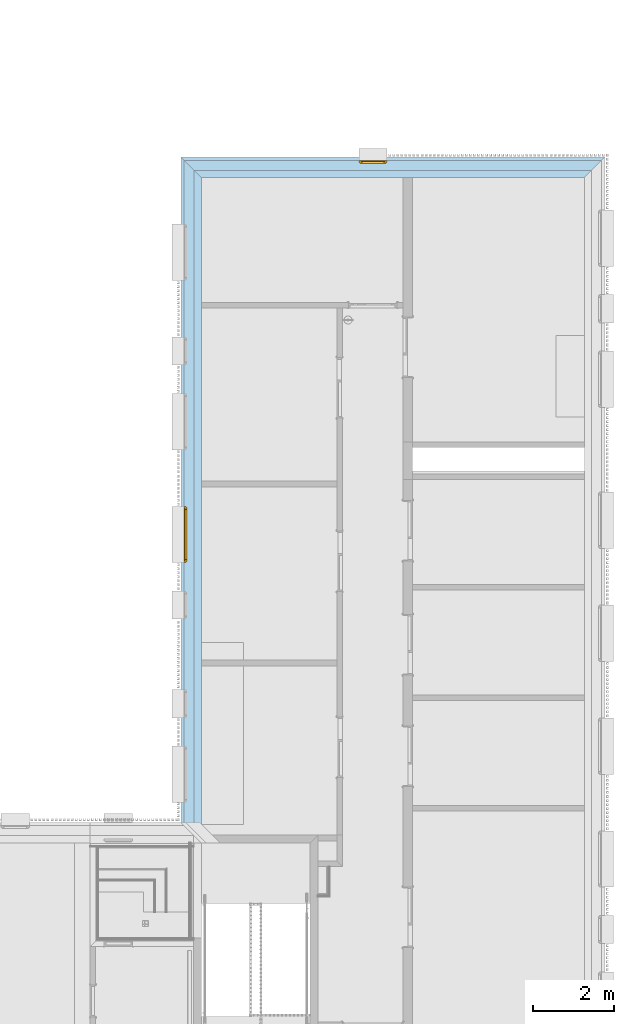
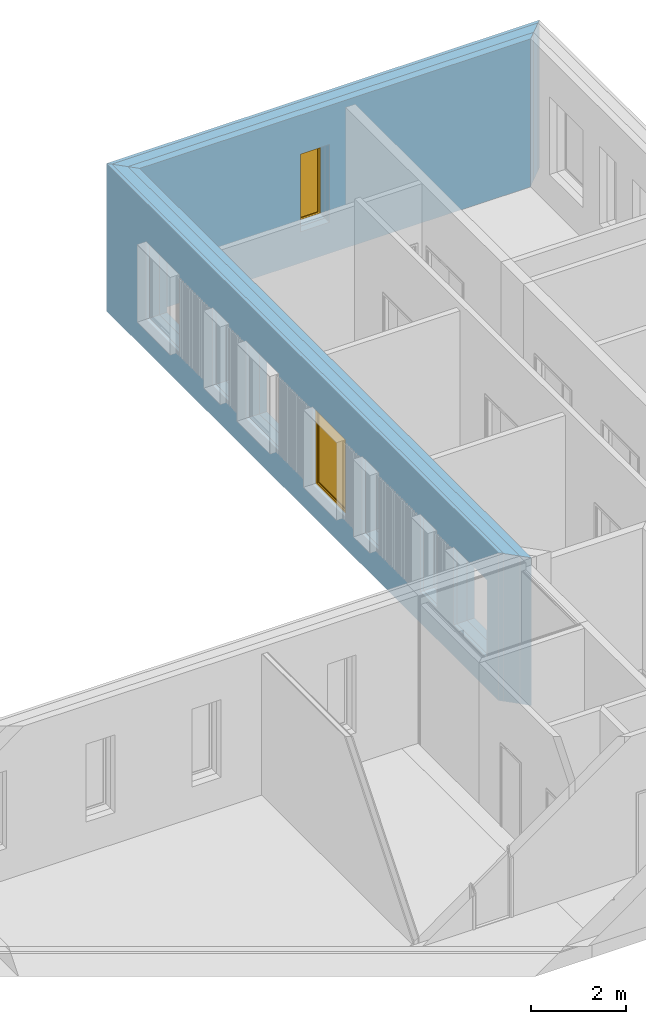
# One storey, part 70 of 100: 2 windows, 8 openings, 2 elements without a shape of their own, plus 6 elements that do not belong to this part.
"""IFC2X3 building model written with IfcOpenShell, lengths in millimetres."""

from ifc_helpers import new_model, entity, si_unit, converted_unit, derived_unit, money_unit, direction, frame, origin_with_axes, origin_2d_with_axis, place, context, subcontext, project, spatial, polyline, rectangle, outline, extrude, open_shell, faceted_brep, surface_model, material, type_object, element, fill, aggregate, save


model = new_model("IFC2X3")

# Units and contexts
model_context = context("Model", 3, precision=0.01, world=origin_with_axes(), true_north=direction((0.0, 1.0)))
body_context = subcontext(model_context, "Body", "Model", "MODEL_VIEW")
ifc_project = project(units=[si_unit("LENGTHUNIT", "METRE", prefix="MILLI"), si_unit("AREAUNIT", "SQUARE_METRE"), si_unit("VOLUMEUNIT", "CUBIC_METRE"), converted_unit("PLANEANGLEUNIT", "DEGREE", entity("IfcPlaneAngleMeasure", 0.0174532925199), si_unit("PLANEANGLEUNIT", "RADIAN"), dimensions=[0, 0, 0, 0, 0, 0, 0]), si_unit("SOLIDANGLEUNIT", "STERADIAN"), money_unit("EUR"), converted_unit("TIMEUNIT", "Year", entity("IfcTimeMeasure", 31556926.0), si_unit("TIMEUNIT", "SECOND"), dimensions=[0, 0, 1, 0, 0, 0, 0]), si_unit("MASSUNIT", "GRAM", prefix="KILO"), si_unit("THERMODYNAMICTEMPERATUREUNIT", "DEGREE_CELSIUS"), si_unit("LUMINOUSINTENSITYUNIT", "LUMEN"), si_unit("ENERGYUNIT", "JOULE", prefix="MEGA"), derived_unit("THERMALCONDUCTANCEUNIT", [(si_unit("POWERUNIT", "WATT"), 1), (si_unit("LENGTHUNIT", "METRE"), -1), (si_unit("THERMODYNAMICTEMPERATUREUNIT", "KELVIN"), -1)]), derived_unit("SPECIFICHEATCAPACITYUNIT", [(si_unit("ENERGYUNIT", "JOULE"), 1), (si_unit("MASSUNIT", "GRAM", prefix="KILO"), -1), (si_unit("THERMODYNAMICTEMPERATUREUNIT", "KELVIN"), -1)]), derived_unit("MASSDENSITYUNIT", [(si_unit("MASSUNIT", "GRAM", prefix="KILO"), 1), (si_unit("VOLUMEUNIT", "CUBIC_METRE"), -1)])], contexts=[model_context])

# Site, building, storey
site_placement = place(None, origin_with_axes())
site = spatial("IfcSite", under=ifc_project, at=site_placement, Name="Politse- ja Piirivalveameti ning Päästeameti ühishoone", CompositionType="ELEMENT")
building_placement = place(site_placement, origin_with_axes())
building = spatial("IfcBuilding", under=site, at=building_placement, Name="Politse- ja Piirivalveameti ning Päästeameti ühishoone", CompositionType="ELEMENT")
storey_placement = place(building_placement, frame((0.0, 0.0, 3800.0), z_axis=(0.0, 0.0, 1.0), x_axis=(1.0, 0.0, 0.0)))
storey = spatial("IfcBuildingStorey", under=building, at=storey_placement, Name="Teine korrus", CompositionType="ELEMENT", Elevation=3800.0)

# Window
window_style_1 = type_object("IfcWindowStyle", Name="Window 23", ConstructionType="NOTDEFINED", OperationType="SINGLE_PANEL", ParameterTakesPrecedence=False, Sizeable=False)
wall_1_placement = place(storey_placement, frame((60160.5519118, 37499.9521318, 0.0), z_axis=(0.0, 0.0, 1.0), x_axis=(0.0, -1.0, 0.0)))
opening_1_placement = place(wall_1_placement, frame((8850.48527148, 0.0, 800.0), z_axis=(0.0, 0.0, 1.0), x_axis=(1.0, 0.0, 0.0)))
window_1_placement = place(opening_1_placement, frame((-700.0, 0.0, 0.0), z_axis=(0.0, 0.0, 1.0), x_axis=(1.0, 0.0, 0.0)))
window_1 = element("IfcWindow", 1, at=window_1_placement, inside=storey, type_object=window_style_1, Name="A-02", ObjectType="WINDOW", OverallHeight=2000.0, OverallWidth=1400.0, context=body_context, shape_type="SurfaceModel", body=[
    faceted_brep([(1375.0, -380.0, 1950.0), (1375.0, -405.0, 1950.0), (1350.0, -405.0, 1950.0), (1350.0, -430.0, 1950.0), (1400.0, -430.0, 1950.0), (1400.0, -380.0, 1950.0), (1375.0, -380.0, 50.0), (1375.0, -405.0, 50.0), (1350.0, -405.0, 50.0), (1350.0, -430.0, 50.0), (1400.0, -430.0, 50.0), (1400.0, -380.0, 50.0)], [[[0, 1, 2, 3, 4, 5]], [[1, 0, 6, 7]], [[8, 2, 1, 7]], [[2, 8, 9, 3]], [[4, 3, 9, 10]], [[5, 4, 10, 11]], [[6, 0, 5, 11]], [[7, 6, 11, 10, 9, 8]]]),
    faceted_brep([(50.0, -405.0, 1950.0), (25.0, -405.0, 1950.0), (25.0, -380.0, 1950.0), (0.0, -380.0, 1950.0), (0.0, -430.0, 1950.0), (50.0, -430.0, 1950.0), (50.0, -405.0, 50.0), (25.0, -405.0, 50.0), (25.0, -380.0, 50.0), (0.0, -380.0, 50.0), (0.0, -430.0, 50.0), (50.0, -430.0, 50.0)], [[[0, 1, 2, 3, 4, 5]], [[1, 0, 6, 7]], [[8, 2, 1, 7]], [[2, 8, 9, 3]], [[9, 10, 4, 3]], [[10, 11, 5, 4]], [[6, 0, 5, 11]], [[7, 6, 11, 10, 9, 8]]]),
    faceted_brep([(50.0, -405.0, 50.0), (25.0, -405.0, 50.0), (25.0, -380.0, 50.0), (0.0, -380.0, 50.0), (0.0, -430.0, 50.0), (50.0, -430.0, 50.0), (1350.0, -405.0, 50.0), (1375.0, -405.0, 50.0), (1375.0, -405.0, 25.0), (25.0, -405.0, 25.0), (25.0, -380.0, 25.0), (1375.0, -380.0, 25.0), (1375.0, -380.0, 50.0), (1400.0, -380.0, 50.0), (1400.0, -380.0, 0.0), (0.0, -380.0, 0.0), (0.0, -430.0, 0.0), (1400.0, -430.0, 50.0), (1350.0, -430.0, 50.0), (1400.0, -430.0, 0.0)], [[[0, 1, 2, 3, 4, 5]], [[1, 0, 6, 7, 8, 9]], [[10, 2, 1, 9]], [[11, 12, 13, 14, 15, 3, 2, 10]], [[15, 16, 4, 3]], [[17, 18, 5, 4, 16, 19]], [[6, 0, 5, 18]], [[7, 6, 18, 17, 13, 12]], [[7, 12, 11, 8]], [[11, 10, 9, 8]], [[13, 17, 19, 14]], [[14, 19, 16, 15]]]),
    faceted_brep([(1375.0, -380.0, 1950.0), (1375.0, -380.0, 1975.0), (25.0, -380.0, 1975.0), (25.0, -380.0, 1950.0), (0.0, -380.0, 1950.0), (0.0, -380.0, 2000.0), (1400.0, -380.0, 2000.0), (1400.0, -380.0, 1950.0), (1375.0, -405.0, 1950.0), (1375.0, -405.0, 1975.0), (25.0, -405.0, 1975.0), (25.0, -405.0, 1950.0), (50.0, -405.0, 1950.0), (50.0, -430.0, 1950.0), (0.0, -430.0, 1950.0), (0.0, -430.0, 2000.0), (1400.0, -430.0, 2000.0), (1400.0, -430.0, 1950.0), (1350.0, -430.0, 1950.0), (1350.0, -405.0, 1950.0)], [[[0, 1, 2, 3, 4, 5, 6, 7]], [[1, 0, 8, 9]], [[2, 1, 9, 10]], [[3, 2, 10, 11]], [[11, 12, 13, 14, 4, 3]], [[4, 14, 15, 5]], [[5, 15, 16, 6]], [[6, 16, 17, 7]], [[8, 0, 7, 17, 18, 19]], [[12, 11, 10, 9, 8, 19]], [[12, 19, 18, 13]], [[14, 13, 18, 17, 16, 15]]]),
    faceted_brep([(1325.0, -405.0, 1925.0), (1375.0, -405.0, 1925.0), (1375.0, -355.0, 1925.0), (1325.0, -355.0, 1925.0), (1325.0, -405.0, 75.0), (1375.0, -405.0, 75.0), (1375.0, -355.0, 75.0), (1325.0, -355.0, 75.0)], [[[0, 1, 2, 3]], [[0, 4, 5, 1]], [[1, 5, 6, 2]], [[3, 2, 6, 7]], [[4, 0, 3, 7]], [[5, 4, 7, 6]]]),
    faceted_brep([(75.0, -405.0, 75.0), (25.0, -405.0, 75.0), (25.0, -355.0, 75.0), (75.0, -355.0, 75.0), (75.0, -405.0, 1925.0), (25.0, -405.0, 1925.0), (25.0, -355.0, 1925.0), (75.0, -355.0, 1925.0)], [[[0, 1, 2, 3]], [[0, 4, 5, 1]], [[1, 5, 6, 2]], [[3, 2, 6, 7]], [[4, 0, 3, 7]], [[5, 4, 7, 6]]]),
    faceted_brep([(25.0, -405.0, 25.0), (25.0, -405.0, 75.0), (25.0, -355.0, 75.0), (25.0, -355.0, 25.0), (1375.0, -405.0, 25.0), (1375.0, -405.0, 75.0), (1325.0, -405.0, 75.0), (75.0, -405.0, 75.0), (75.0, -355.0, 75.0), (1325.0, -355.0, 75.0), (1375.0, -355.0, 75.0), (1375.0, -355.0, 25.0)], [[[0, 1, 2, 3]], [[0, 4, 5, 6, 7, 1]], [[1, 7, 8, 2]], [[3, 2, 8, 9, 10, 11]], [[4, 0, 3, 11]], [[5, 4, 11, 10]], [[6, 5, 10, 9]], [[7, 6, 9, 8]]]),
    faceted_brep([(1375.0, -405.0, 1975.0), (1375.0, -405.0, 1925.0), (1375.0, -355.0, 1925.0), (1375.0, -355.0, 1975.0), (25.0, -405.0, 1975.0), (25.0, -405.0, 1925.0), (75.0, -405.0, 1925.0), (1325.0, -405.0, 1925.0), (1325.0, -355.0, 1925.0), (75.0, -355.0, 1925.0), (25.0, -355.0, 1925.0), (25.0, -355.0, 1975.0)], [[[0, 1, 2, 3]], [[0, 4, 5, 6, 7, 1]], [[1, 7, 8, 2]], [[3, 2, 8, 9, 10, 11]], [[4, 0, 3, 11]], [[5, 4, 11, 10]], [[6, 5, 10, 9]], [[7, 6, 9, 8]]]),
    surface_model("IfcShellBasedSurfaceModel", [(1325.0, -390.0, 75.0), (1325.0, -390.0, 1925.0), (75.0, -390.0, 1925.0), (75.0, -390.0, 75.0)], [open_shell([[[0, 1, 2, 3]]])]),
    surface_model("IfcShellBasedSurfaceModel", [(1325.0, -370.0, 75.0), (75.0, -370.0, 75.0), (75.0, -370.0, 1925.0), (1325.0, -370.0, 1925.0)], [open_shell([[[0, 1, 2, 3]]])]),
])

window_style_2 = type_object("IfcWindowStyle", Name="Window 23", ConstructionType="NOTDEFINED", OperationType="SINGLE_PANEL", ParameterTakesPrecedence=False, Sizeable=False)
wall_2_placement = place(storey_placement, frame((69660.5664257, 37499.9521318, 0.0), z_axis=(0.0, 0.0, 1.0), x_axis=(-1.0, 0.0, 0.0)))
opening_8_placement = place(wall_2_placement, frame((5239.50325954, 0.0, 800.0), z_axis=(0.0, 0.0, 1.0), x_axis=(1.0, 0.0, 0.0)))
window_2_placement = place(opening_8_placement, frame((-350.0, 0.0, 0.0), z_axis=(0.0, 0.0, 1.0), x_axis=(1.0, 0.0, 0.0)))
window_2 = element("IfcWindow", 2, at=window_2_placement, inside=storey, type_object=window_style_2, Name="A-01", ObjectType="WINDOW", OverallHeight=2000.0, OverallWidth=700.0, context=body_context, shape_type="SurfaceModel", body=[
    faceted_brep([(675.0, -380.0, 1950.0), (675.0, -405.0, 1950.0), (650.0, -405.0, 1950.0), (650.0, -430.0, 1950.0), (700.0, -430.0, 1950.0), (700.0, -380.0, 1950.0), (675.0, -380.0, 50.0), (675.0, -405.0, 50.0), (650.0, -405.0, 50.0), (650.0, -430.0, 50.0), (700.0, -430.0, 50.0), (700.0, -380.0, 50.0)], [[[0, 1, 2, 3, 4, 5]], [[1, 0, 6, 7]], [[8, 2, 1, 7]], [[2, 8, 9, 3]], [[4, 3, 9, 10]], [[5, 4, 10, 11]], [[6, 0, 5, 11]], [[7, 6, 11, 10, 9, 8]]]),
    faceted_brep([(50.0, -405.0, 1950.0), (25.0, -405.0, 1950.0), (25.0, -380.0, 1950.0), (0.0, -380.0, 1950.0), (0.0, -430.0, 1950.0), (50.0, -430.0, 1950.0), (50.0, -405.0, 50.0), (25.0, -405.0, 50.0), (25.0, -380.0, 50.0), (0.0, -380.0, 50.0), (0.0, -430.0, 50.0), (50.0, -430.0, 50.0)], [[[0, 1, 2, 3, 4, 5]], [[1, 0, 6, 7]], [[8, 2, 1, 7]], [[2, 8, 9, 3]], [[9, 10, 4, 3]], [[10, 11, 5, 4]], [[6, 0, 5, 11]], [[7, 6, 11, 10, 9, 8]]]),
    faceted_brep([(50.0, -405.0, 50.0), (25.0, -405.0, 50.0), (25.0, -380.0, 50.0), (0.0, -380.0, 50.0), (0.0, -430.0, 50.0), (50.0, -430.0, 50.0), (650.0, -405.0, 50.0), (675.0, -405.0, 50.0), (675.0, -405.0, 25.0), (25.0, -405.0, 25.0), (25.0, -380.0, 25.0), (675.0, -380.0, 25.0), (675.0, -380.0, 50.0), (700.0, -380.0, 50.0), (700.0, -380.0, 0.0), (0.0, -380.0, 0.0), (0.0, -430.0, 0.0), (700.0, -430.0, 50.0), (650.0, -430.0, 50.0), (700.0, -430.0, 0.0)], [[[0, 1, 2, 3, 4, 5]], [[1, 0, 6, 7, 8, 9]], [[10, 2, 1, 9]], [[11, 12, 13, 14, 15, 3, 2, 10]], [[15, 16, 4, 3]], [[17, 18, 5, 4, 16, 19]], [[6, 0, 5, 18]], [[7, 6, 18, 17, 13, 12]], [[7, 12, 11, 8]], [[11, 10, 9, 8]], [[13, 17, 19, 14]], [[14, 19, 16, 15]]]),
    faceted_brep([(675.0, -380.0, 1950.0), (675.0, -380.0, 1975.0), (25.0, -380.0, 1975.0), (25.0, -380.0, 1950.0), (0.0, -380.0, 1950.0), (0.0, -380.0, 2000.0), (700.0, -380.0, 2000.0), (700.0, -380.0, 1950.0), (675.0, -405.0, 1950.0), (675.0, -405.0, 1975.0), (25.0, -405.0, 1975.0), (25.0, -405.0, 1950.0), (50.0, -405.0, 1950.0), (50.0, -430.0, 1950.0), (0.0, -430.0, 1950.0), (0.0, -430.0, 2000.0), (700.0, -430.0, 2000.0), (700.0, -430.0, 1950.0), (650.0, -430.0, 1950.0), (650.0, -405.0, 1950.0)], [[[0, 1, 2, 3, 4, 5, 6, 7]], [[1, 0, 8, 9]], [[2, 1, 9, 10]], [[3, 2, 10, 11]], [[11, 12, 13, 14, 4, 3]], [[4, 14, 15, 5]], [[5, 15, 16, 6]], [[6, 16, 17, 7]], [[8, 0, 7, 17, 18, 19]], [[12, 11, 10, 9, 8, 19]], [[12, 19, 18, 13]], [[14, 13, 18, 17, 16, 15]]]),
    faceted_brep([(625.0, -405.0, 1925.0), (675.0, -405.0, 1925.0), (675.0, -355.0, 1925.0), (625.0, -355.0, 1925.0), (625.0, -405.0, 75.0), (675.0, -405.0, 75.0), (675.0, -355.0, 75.0), (625.0, -355.0, 75.0)], [[[0, 1, 2, 3]], [[0, 4, 5, 1]], [[1, 5, 6, 2]], [[3, 2, 6, 7]], [[4, 0, 3, 7]], [[5, 4, 7, 6]]]),
    faceted_brep([(75.0, -405.0, 75.0), (25.0, -405.0, 75.0), (25.0, -355.0, 75.0), (75.0, -355.0, 75.0), (75.0, -405.0, 1925.0), (25.0, -405.0, 1925.0), (25.0, -355.0, 1925.0), (75.0, -355.0, 1925.0)], [[[0, 1, 2, 3]], [[0, 4, 5, 1]], [[1, 5, 6, 2]], [[3, 2, 6, 7]], [[4, 0, 3, 7]], [[5, 4, 7, 6]]]),
    faceted_brep([(25.0, -405.0, 25.0), (25.0, -405.0, 75.0), (25.0, -355.0, 75.0), (25.0, -355.0, 25.0), (675.0, -405.0, 25.0), (675.0, -405.0, 75.0), (625.0, -405.0, 75.0), (75.0, -405.0, 75.0), (75.0, -355.0, 75.0), (625.0, -355.0, 75.0), (675.0, -355.0, 75.0), (675.0, -355.0, 25.0)], [[[0, 1, 2, 3]], [[0, 4, 5, 6, 7, 1]], [[1, 7, 8, 2]], [[3, 2, 8, 9, 10, 11]], [[4, 0, 3, 11]], [[5, 4, 11, 10]], [[6, 5, 10, 9]], [[7, 6, 9, 8]]]),
    faceted_brep([(675.0, -405.0, 1975.0), (675.0, -405.0, 1925.0), (675.0, -355.0, 1925.0), (675.0, -355.0, 1975.0), (25.0, -405.0, 1975.0), (25.0, -405.0, 1925.0), (75.0, -405.0, 1925.0), (625.0, -405.0, 1925.0), (625.0, -355.0, 1925.0), (75.0, -355.0, 1925.0), (25.0, -355.0, 1925.0), (25.0, -355.0, 1975.0)], [[[0, 1, 2, 3]], [[0, 4, 5, 6, 7, 1]], [[1, 7, 8, 2]], [[3, 2, 8, 9, 10, 11]], [[4, 0, 3, 11]], [[5, 4, 11, 10]], [[6, 5, 10, 9]], [[7, 6, 9, 8]]]),
    surface_model("IfcShellBasedSurfaceModel", [(625.0, -390.0, 75.0), (625.0, -390.0, 1925.0), (75.0, -390.0, 1925.0), (75.0, -390.0, 75.0)], [open_shell([[[0, 1, 2, 3]]])]),
    surface_model("IfcShellBasedSurfaceModel", [(625.0, -370.0, 75.0), (75.0, -370.0, 75.0), (75.0, -370.0, 1925.0), (625.0, -370.0, 1925.0)], [open_shell([[[0, 1, 2, 3]]])]),
])

# Wall, opening
wall_type = type_object("IfcWallType", Name="VS-01_välissein 510", PredefinedType="NOTDEFINED")
wall_1 = element("IfcWall", 3, at=wall_1_placement, inside=storey, type_object=wall_type, Name="VS-01")
opening_1 = element("IfcOpeningElement", 4, at=opening_1_placement, cuts=wall_1, Name="A-02", context=body_context, shape_type="SweptSolid", body=[
    extrude(rectangle(XDim=1400.0, YDim=2000.0, at=origin_2d_with_axis()), frame((0.0, -430.0, 1000.0), z_axis=(0.0, 1.0, 0.0), x_axis=(-1.0, 0.0, 0.0)), (0.0, 0.0, 1.0), 940.0),
    extrude(rectangle(XDim=1400.0, YDim=2000.0, at=origin_2d_with_axis()), frame((0.0, -430.0, 1000.0), z_axis=(0.0, -1.0, 0.0), x_axis=(-1.0, 0.0, 0.0)), (0.0, 0.0, 1.0), 590.0),
])

fill(opening_1, window_1)

# Opening
opening_2_placement = place(wall_1_placement, frame((6050.00004858, 0.0, 800.0), z_axis=(0.0, 0.0, 1.0), x_axis=(1.0, 0.0, 0.0)))
element("IfcOpeningElement", 5, at=opening_2_placement, cuts=wall_1, Name="A-02", context=body_context, shape_type="SweptSolid", body=[
    extrude(rectangle(XDim=1400.0, YDim=2000.0, at=origin_2d_with_axis()), frame((0.0, -430.0, 1000.0), z_axis=(0.0, -1.0, 0.0), x_axis=(1.0, 0.0, 0.0)), (0.0, 0.0, -1.0), 940.0),
    extrude(rectangle(XDim=1400.0, YDim=2000.0, at=origin_2d_with_axis()), frame((0.0, -430.0, 1000.0), z_axis=(0.0, 1.0, 0.0), x_axis=(1.0, 0.0, 0.0)), (0.0, 0.0, -1.0), 590.0),
])

opening_3_placement = place(wall_1_placement, frame((13050.0000486, 0.0, 800.0), z_axis=(0.0, 0.0, 1.0), x_axis=(1.0, 0.0, 0.0)))
element("IfcOpeningElement", 6, at=opening_3_placement, cuts=wall_1, Name="A-01", context=body_context, shape_type="SweptSolid", body=[
    extrude(rectangle(XDim=700.0, YDim=2000.0, at=origin_2d_with_axis()), frame((0.0, -430.0, 1000.0), z_axis=(0.0, 1.0, 0.0), x_axis=(-1.0, 0.0, 0.0)), (0.0, 0.0, 1.0), 940.0),
    extrude(rectangle(XDim=700.0, YDim=2000.0, at=origin_2d_with_axis()), frame((0.0, -430.0, 1000.0), z_axis=(0.0, -1.0, 0.0), x_axis=(-1.0, 0.0, 0.0)), (0.0, 0.0, 1.0), 590.0),
])

opening_4_placement = place(wall_1_placement, frame((14800.0000486, 0.0, 800.0), z_axis=(0.0, 0.0, 1.0), x_axis=(1.0, 0.0, 0.0)))
element("IfcOpeningElement", 7, at=opening_4_placement, cuts=wall_1, Name="A-02", context=body_context, shape_type="SweptSolid", body=[
    extrude(rectangle(XDim=1400.0, YDim=2000.0, at=origin_2d_with_axis()), frame((0.0, -430.0, 1000.0), z_axis=(0.0, -1.0, 0.0), x_axis=(1.0, 0.0, 0.0)), (0.0, 0.0, -1.0), 940.0),
    extrude(rectangle(XDim=1400.0, YDim=2000.0, at=origin_2d_with_axis()), frame((0.0, -430.0, 1000.0), z_axis=(0.0, 1.0, 0.0), x_axis=(1.0, 0.0, 0.0)), (0.0, 0.0, -1.0), 590.0),
])

opening_5_placement = place(wall_1_placement, frame((4300.00004858, 0.0, 800.0), z_axis=(0.0, 0.0, 1.0), x_axis=(1.0, 0.0, 0.0)))
element("IfcOpeningElement", 8, at=opening_5_placement, cuts=wall_1, Name="A-01", context=body_context, shape_type="SweptSolid", body=[
    extrude(rectangle(XDim=700.0, YDim=2000.0, at=origin_2d_with_axis()), frame((0.0, -430.0, 1000.0), z_axis=(0.0, 1.0, 0.0), x_axis=(-1.0, 0.0, 0.0)), (0.0, 0.0, 1.0), 940.0),
    extrude(rectangle(XDim=700.0, YDim=2000.0, at=origin_2d_with_axis()), frame((0.0, -430.0, 1000.0), z_axis=(0.0, -1.0, 0.0), x_axis=(-1.0, 0.0, 0.0)), (0.0, 0.0, 1.0), 590.0),
])

opening_6_placement = place(wall_1_placement, frame((10600.4316032, 0.0, 800.0), z_axis=(0.0, 0.0, 1.0), x_axis=(1.0, 0.0, 0.0)))
element("IfcOpeningElement", 9, at=opening_6_placement, cuts=wall_1, Name="A-01", context=body_context, shape_type="SweptSolid", body=[
    extrude(rectangle(XDim=700.0, YDim=2000.0, at=origin_2d_with_axis()), frame((0.0, -430.0, 1000.0), z_axis=(0.0, 1.0, 0.0), x_axis=(-1.0, 0.0, 0.0)), (0.0, 0.0, 1.0), 940.0),
    extrude(rectangle(XDim=700.0, YDim=2000.0, at=origin_2d_with_axis()), frame((0.0, -430.0, 1000.0), z_axis=(0.0, -1.0, 0.0), x_axis=(-1.0, 0.0, 0.0)), (0.0, 0.0, 1.0), 590.0),
])

opening_7_placement = place(wall_1_placement, frame((1850.00004858, 0.0, 800.0), z_axis=(0.0, 0.0, 1.0), x_axis=(1.0, 0.0, 0.0)))
element("IfcOpeningElement", 10, at=opening_7_placement, cuts=wall_1, Name="A-02", context=body_context, shape_type="SweptSolid", body=[
    extrude(rectangle(XDim=1400.0, YDim=2000.0, at=origin_2d_with_axis()), frame((0.0, -430.0, 1000.0), z_axis=(0.0, -1.0, 0.0), x_axis=(1.0, 0.0, 0.0)), (0.0, 0.0, -1.0), 940.0),
    extrude(rectangle(XDim=1400.0, YDim=2000.0, at=origin_2d_with_axis()), frame((0.0, -430.0, 1000.0), z_axis=(0.0, 1.0, 0.0), x_axis=(1.0, 0.0, 0.0)), (0.0, 0.0, -1.0), 590.0),
])

# Building element part
ifc_material_1 = material(Name="KON-04_Betoon - Konstuktsioon")
building_element_part_1_placement = place(wall_1_placement, origin_with_axes())
building_element_part_1 = element("IfcBuildingElementPart", 11, at=building_element_part_1_placement, material=ifc_material_1, Name="KON-04_Betoon - Konstuktsioon", context=body_context, shape_type="SweptSolid", body=[
    extrude(outline(polyline([(-180.0, -180.0), (16319.9985004, -180.0), (16499.998494, 0.0), (0.0, 0.0), (-180.0, -180.0)])), origin_with_axes(), (0.0, 0.0, 1.0), 3800.0),
])

ifc_material_2 = material(Name="SOJ-06_Soojustus - Plastik Kõva")
building_element_part_2_placement = place(wall_1_placement, origin_with_axes())
building_element_part_2 = element("IfcBuildingElementPart", 12, at=building_element_part_2_placement, material=ifc_material_2, Name="SOJ-06_Soojustus - Plastik Kõva", context=body_context, shape_type="SweptSolid", body=[
    extrude(outline(polyline([(-430.0, -430.0), (16069.9985094, -430.0), (16319.9985004, -180.0), (-180.0, -180.0), (-430.0, -430.0)])), origin_with_axes(), (0.0, 0.0, 1.0), 3800.0),
])

building_element_part_3_placement = place(wall_1_placement, origin_with_axes())
building_element_part_3 = element("IfcBuildingElementPart", 13, at=building_element_part_3_placement, material=ifc_material_1, Name="KON-04_Betoon - Konstuktsioon", context=body_context, shape_type="SweptSolid", body=[
    extrude(outline(polyline([(-510.0, -510.0), (15989.9985123, -510.0), (16069.9985094, -430.0), (-430.0, -430.0), (-510.0, -510.0)])), origin_with_axes(), (0.0, 0.0, 1.0), 3800.0),
])

aggregate(wall_1, [building_element_part_1, building_element_part_2, building_element_part_3])

# Wall, opening
wall_2 = element("IfcWall", 14, at=wall_2_placement, inside=storey, type_object=wall_type, Name="VS-01")
opening_8 = element("IfcOpeningElement", 15, at=opening_8_placement, cuts=wall_2, Name="A-01", context=body_context, shape_type="SweptSolid", body=[
    extrude(rectangle(XDim=700.0, YDim=2000.0, at=origin_2d_with_axis()), frame((0.0, -430.0, 1000.0), z_axis=(0.0, 1.0, 0.0), x_axis=(-1.0, 0.0, 0.0)), (0.0, 0.0, 1.0), 940.0),
    extrude(rectangle(XDim=700.0, YDim=2000.0, at=origin_2d_with_axis()), frame((0.0, -430.0, 1000.0), z_axis=(0.0, -1.0, 0.0), x_axis=(-1.0, 0.0, 0.0)), (0.0, 0.0, 1.0), 590.0),
])

fill(opening_8, window_2)

# Building element part
building_element_part_4_placement = place(wall_2_placement, origin_with_axes())
building_element_part_4 = element("IfcBuildingElementPart", 16, at=building_element_part_4_placement, material=ifc_material_1, Name="KON-04_Betoon - Konstuktsioon", context=body_context, shape_type="SweptSolid", body=[
    extrude(outline(polyline([(-180.0, -180.0), (9680.01451389, -180.0), (9500.01451389, 0.0), (0.0, 0.0), (-180.0, -180.0)])), origin_with_axes(), (0.0, 0.0, 1.0), 3800.0),
])

building_element_part_5_placement = place(wall_2_placement, origin_with_axes())
building_element_part_5 = element("IfcBuildingElementPart", 17, at=building_element_part_5_placement, material=ifc_material_2, Name="SOJ-06_Soojustus - Plastik Kõva", context=body_context, shape_type="SweptSolid", body=[
    extrude(outline(polyline([(-430.0, -430.0), (9930.01451389, -430.0), (9680.01451389, -180.0), (-180.0, -180.0), (-430.0, -430.0)])), origin_with_axes(), (0.0, 0.0, 1.0), 3800.0),
])

building_element_part_6_placement = place(wall_2_placement, origin_with_axes())
building_element_part_6 = element("IfcBuildingElementPart", 18, at=building_element_part_6_placement, material=ifc_material_1, Name="KON-04_Betoon - Konstuktsioon", context=body_context, shape_type="SweptSolid", body=[
    extrude(outline(polyline([(-510.0, -510.0), (10010.0145139, -510.0), (9930.01451389, -430.0), (-430.0, -430.0), (-510.0, -510.0)])), origin_with_axes(), (0.0, 0.0, 1.0), 3800.0),
])

aggregate(wall_2, [building_element_part_4, building_element_part_5, building_element_part_6])

save(model, "model.ifc")
